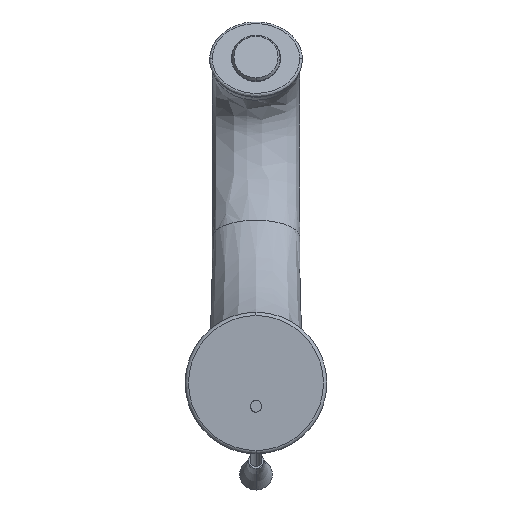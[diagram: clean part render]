
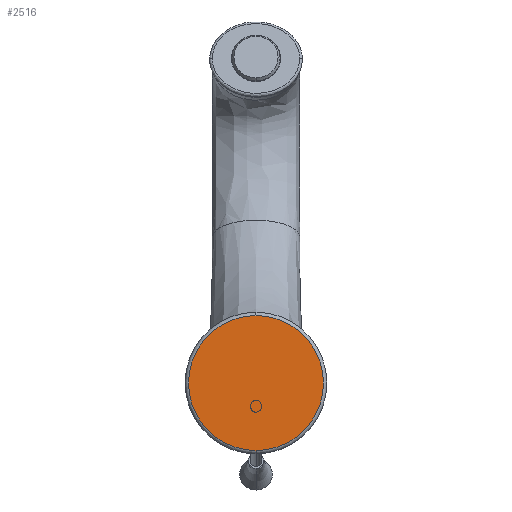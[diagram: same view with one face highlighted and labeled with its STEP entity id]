
A CAD part, front view. The second image highlights one B-rep face of the part: STEP entity #2516.
In plain terms, the highlighted planar face has unit normal (0, -1, 0).
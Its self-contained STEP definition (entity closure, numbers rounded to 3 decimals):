
#621=CARTESIAN_POINT('',(0.,0.,0.));
#622=DIRECTION('',(0.,1.,0.));
#623=DIRECTION('',(0.,0.,-1.));
#624=AXIS2_PLACEMENT_3D('',#621,#622,#623);
#626=CARTESIAN_POINT('',(0.,0.,0.));
#627=DIRECTION('',(0.,1.,0.));
#628=DIRECTION('',(0.,0.,1.));
#629=AXIS2_PLACEMENT_3D('',#626,#627,#628);
#905=CARTESIAN_POINT('',(0.,0.,-25.5));
#906=CARTESIAN_POINT('',(0.,0.,25.5));
#907=VERTEX_POINT('',#905);
#908=VERTEX_POINT('',#906);
#2506=CARTESIAN_POINT('',(28.67,0.,25.5));
#2507=DIRECTION('',(0.,1.,0.));
#2508=DIRECTION('',(0.,0.,-1.));
#2509=AXIS2_PLACEMENT_3D('',#2506,#2507,#2508);
#2510=PLANE('',#2509);
#2512=ORIENTED_EDGE('',*,*,#2511,.T.);
#2513=ORIENTED_EDGE('',*,*,#2496,.T.);
#2514=EDGE_LOOP('',(#2512,#2513));
#2515=FACE_OUTER_BOUND('',#2514,.F.);
#2516=ADVANCED_FACE('',(#2515),#2510,.F.);
#625=CIRCLE('',#624,25.5);
#630=CIRCLE('',#629,25.5);
#2496=EDGE_CURVE('',#908,#907,#630,.T.);
#2511=EDGE_CURVE('',#907,#908,#625,.T.);
